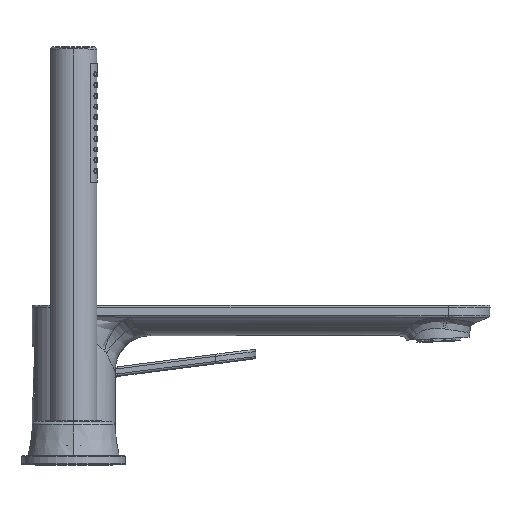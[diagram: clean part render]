
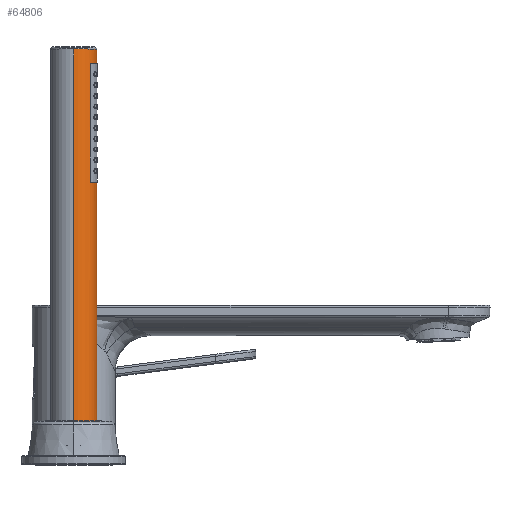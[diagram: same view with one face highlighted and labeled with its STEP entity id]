
A CAD part, top view. The second image highlights one B-rep face of the part: STEP entity #64806.
In plain terms, the highlighted cylindrical face has radius 11.5 mm (diameter 23 mm), a partial arc.
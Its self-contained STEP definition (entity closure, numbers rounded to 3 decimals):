
#472 = DIRECTION ( 'NONE',  ( 1., 0., 0. ) ) ;
#1495 = VECTOR ( 'NONE', #53575, 1000. ) ;
#2217 = EDGE_CURVE ( 'NONE', #55343, #54152, #33132, .T. ) ;
#3013 = EDGE_CURVE ( 'NONE', #3434, #49367, #65059, .T. ) ;
#3434 = VERTEX_POINT ( 'NONE', #10489 ) ;
#4007 = AXIS2_PLACEMENT_3D ( 'NONE', #61134, #39868, #17684 ) ;
#4897 = DIRECTION ( 'NONE',  ( 0., -1., 0. ) ) ;
#5656 = DIRECTION ( 'NONE',  ( 0., -1., 0. ) ) ;
#6499 = CIRCLE ( 'NONE', #31703, 11.5 ) ;
#6686 = EDGE_CURVE ( 'NONE', #25843, #14577, #14769, .T. ) ;
#7145 = LINE ( 'NONE', #50248, #33427 ) ;
#7239 = ORIENTED_EDGE ( 'NONE', *, *, #24456, .F. ) ;
#7335 = DIRECTION ( 'NONE',  ( 0., -1., 0. ) ) ;
#9768 = CARTESIAN_POINT ( 'NONE',  ( 0., 156.766, 131.5 ) ) ;
#10003 = ORIENTED_EDGE ( 'NONE', *, *, #50140, .T. ) ;
#10058 = AXIS2_PLACEMENT_3D ( 'NONE', #54120, #4897, #26768 ) ;
#10489 = CARTESIAN_POINT ( 'NONE',  ( 0., 19.351, 108.5 ) ) ;
#10667 = VECTOR ( 'NONE', #5656, 1000. ) ;
#11062 = CARTESIAN_POINT ( 'NONE',  ( 8.113, 156.766, 111.85 ) ) ;
#11470 = VECTOR ( 'NONE', #16283, 1000. ) ;
#13798 = CARTESIAN_POINT ( 'NONE',  ( 0., 202.766, 131.5 ) ) ;
#14577 = VERTEX_POINT ( 'NONE', #13798 ) ;
#14769 = CIRCLE ( 'NONE', #54884, 11.5 ) ;
#16283 = DIRECTION ( 'NONE',  ( 0., 1., 0. ) ) ;
#16504 = DIRECTION ( 'NONE',  ( 0., 1., 0. ) ) ;
#17684 = DIRECTION ( 'NONE',  ( 0., 0., 1. ) ) ;
#18470 = CARTESIAN_POINT ( 'NONE',  ( 0., 19.351, 131.5 ) ) ;
#18473 = VERTEX_POINT ( 'NONE', #45565 ) ;
#19519 = VERTEX_POINT ( 'NONE', #18470 ) ;
#21989 = EDGE_CURVE ( 'NONE', #3434, #25843, #7145, .T. ) ;
#22304 = EDGE_CURVE ( 'NONE', #49367, #19519, #6499, .T. ) ;
#22607 = ORIENTED_EDGE ( 'NONE', *, *, #2217, .T. ) ;
#22917 = ORIENTED_EDGE ( 'NONE', *, *, #46608, .T. ) ;
#23126 = DIRECTION ( 'NONE',  ( 0., -1., 0. ) ) ;
#23835 = ORIENTED_EDGE ( 'NONE', *, *, #6686, .T. ) ;
#24456 = EDGE_CURVE ( 'NONE', #19519, #14577, #38407, .T. ) ;
#24473 = AXIS2_PLACEMENT_3D ( 'NONE', #50446, #7335, #39599 ) ;
#25765 = CIRCLE ( 'NONE', #4007, 11.5 ) ;
#25843 = VERTEX_POINT ( 'NONE', #55478 ) ;
#26768 = DIRECTION ( 'NONE',  ( 1., 0., 0. ) ) ;
#27741 = CARTESIAN_POINT ( 'NONE',  ( 8.113, 156.766, 128.15 ) ) ;
#30875 = EDGE_CURVE ( 'NONE', #18473, #55343, #55458, .T. ) ;
#31703 = AXIS2_PLACEMENT_3D ( 'NONE', #66577, #23126, #472 ) ;
#33132 = LINE ( 'NONE', #27741, #11470 ) ;
#33185 = FACE_BOUND ( 'NONE', #53204, .T. ) ;
#33427 = VECTOR ( 'NONE', #16504, 1000. ) ;
#35513 = DIRECTION ( 'NONE',  ( 0., -1., 0. ) ) ;
#36532 = EDGE_LOOP ( 'NONE', ( #47842, #42163, #23835, #7239, #56874 ) ) ;
#37327 = VERTEX_POINT ( 'NONE', #48875 ) ;
#38210 = FACE_OUTER_BOUND ( 'NONE', #36532, .T. ) ;
#38407 = LINE ( 'NONE', #9768, #1495 ) ;
#39599 = DIRECTION ( 'NONE',  ( 0., 0., 1. ) ) ;
#39868 = DIRECTION ( 'NONE',  ( 0., 1., 0. ) ) ;
#40702 = AXIS2_PLACEMENT_3D ( 'NONE', #54077, #48680, #70532 ) ;
#42163 = ORIENTED_EDGE ( 'NONE', *, *, #21989, .T. ) ;
#43285 = ORIENTED_EDGE ( 'NONE', *, *, #30875, .T. ) ;
#45029 = CARTESIAN_POINT ( 'NONE',  ( 11.5, 19.351, 120. ) ) ;
#45565 = CARTESIAN_POINT ( 'NONE',  ( 8.113, 137.066, 111.85 ) ) ;
#46608 = EDGE_CURVE ( 'NONE', #54152, #37327, #25765, .T. ) ;
#46657 = CARTESIAN_POINT ( 'NONE',  ( 0., 202.766, 120. ) ) ;
#47842 = ORIENTED_EDGE ( 'NONE', *, *, #3013, .F. ) ;
#48680 = DIRECTION ( 'NONE',  ( 0., 1., 0. ) ) ;
#48875 = CARTESIAN_POINT ( 'NONE',  ( 8.113, 195.566, 111.85 ) ) ;
#49367 = VERTEX_POINT ( 'NONE', #45029 ) ;
#50140 = EDGE_CURVE ( 'NONE', #37327, #18473, #65961, .T. ) ;
#50248 = CARTESIAN_POINT ( 'NONE',  ( 0., 156.766, 108.5 ) ) ;
#50446 = CARTESIAN_POINT ( 'NONE',  ( 0., 137.066, 120. ) ) ;
#53204 = EDGE_LOOP ( 'NONE', ( #22917, #10003, #43285, #22607 ) ) ;
#53575 = DIRECTION ( 'NONE',  ( 0., 1., 0. ) ) ;
#54077 = CARTESIAN_POINT ( 'NONE',  ( 0., 156.766, 120. ) ) ;
#54120 = CARTESIAN_POINT ( 'NONE',  ( 0., 19.351, 120. ) ) ;
#54152 = VERTEX_POINT ( 'NONE', #68931 ) ;
#54884 = AXIS2_PLACEMENT_3D ( 'NONE', #46657, #35513, #57448 ) ;
#55343 = VERTEX_POINT ( 'NONE', #61019 ) ;
#55458 = CIRCLE ( 'NONE', #24473, 11.5 ) ;
#55478 = CARTESIAN_POINT ( 'NONE',  ( 0., 202.766, 108.5 ) ) ;
#56874 = ORIENTED_EDGE ( 'NONE', *, *, #22304, .F. ) ;
#57448 = DIRECTION ( 'NONE',  ( 0., 0., 1. ) ) ;
#61019 = CARTESIAN_POINT ( 'NONE',  ( 8.113, 137.066, 128.15 ) ) ;
#61134 = CARTESIAN_POINT ( 'NONE',  ( 0., 195.566, 120. ) ) ;
#64806 = ADVANCED_FACE ( 'NONE', ( #33185, #38210 ), #70176, .T. ) ;
#65059 = CIRCLE ( 'NONE', #10058, 11.5 ) ;
#65961 = LINE ( 'NONE', #11062, #10667 ) ;
#66577 = CARTESIAN_POINT ( 'NONE',  ( 0., 19.351, 120. ) ) ;
#68931 = CARTESIAN_POINT ( 'NONE',  ( 8.113, 195.566, 128.15 ) ) ;
#70176 = CYLINDRICAL_SURFACE ( 'NONE', #40702, 11.5 ) ;
#70532 = DIRECTION ( 'NONE',  ( 0., 0., 1. ) ) ;
